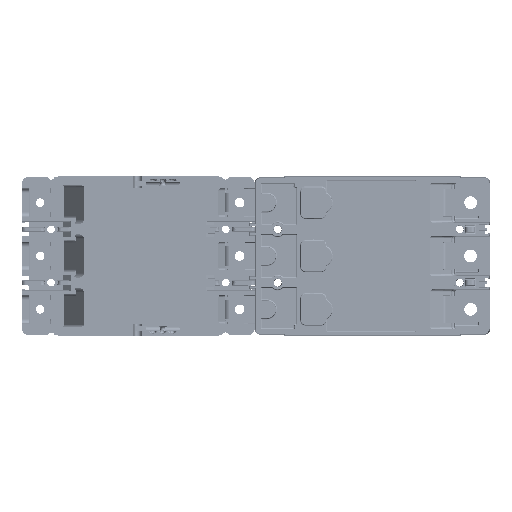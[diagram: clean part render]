
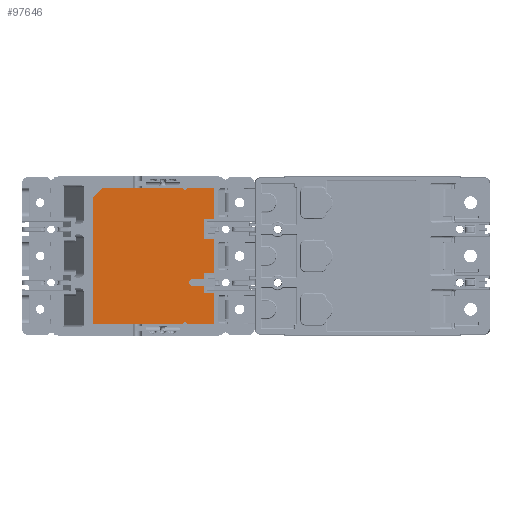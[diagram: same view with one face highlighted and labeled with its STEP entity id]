
A CAD part, front view. The second image highlights one B-rep face of the part: STEP entity #97646.
In plain terms, the highlighted planar face has unit normal (0, -1, 0) as drawn and (0, 1, 0) by its records, which use the part's own axes.
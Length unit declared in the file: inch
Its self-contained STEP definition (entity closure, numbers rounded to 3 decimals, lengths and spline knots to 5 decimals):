
#97238=CARTESIAN_POINT('',(0.8125,0.031,-1.758));
#97239=DIRECTION('',(0.,-1.,0.));
#97240=DIRECTION('',(1.,0.,0.));
#97241=AXIS2_PLACEMENT_3D('',#97238,#97239,#97240);
#97243=DIRECTION('',(-1.,0.,0.));
#97244=VECTOR('',#97243,0.687);
#97245=CARTESIAN_POINT('',(1.5545,0.031,-1.758));
#97246=LINE('',#97245,#97244);
#97247=DIRECTION('',(0.,0.,-1.));
#97248=VECTOR('',#97247,0.812);
#97249=CARTESIAN_POINT('',(1.5545,0.031,-0.946));
#97250=LINE('',#97249,#97248);
#97251=DIRECTION('',(-1.,0.,0.));
#97252=VECTOR('',#97251,0.25);
#97253=CARTESIAN_POINT('',(1.5545,0.031,-0.946));
#97254=LINE('',#97253,#97252);
#97255=DIRECTION('',(0.,0.,-1.));
#97256=VECTOR('',#97255,0.516);
#97257=CARTESIAN_POINT('',(1.3045,0.031,-0.43));
#97258=LINE('',#97257,#97256);
#97259=DIRECTION('',(-1.,0.,0.));
#97260=VECTOR('',#97259,0.25);
#97261=CARTESIAN_POINT('',(1.5545,0.031,-0.43));
#97262=LINE('',#97261,#97260);
#97263=DIRECTION('',(0.,0.,-1.));
#97264=VECTOR('',#97263,0.859);
#97265=CARTESIAN_POINT('',(1.5545,0.031,0.429));
#97266=LINE('',#97265,#97264);
#97267=DIRECTION('',(-1.,0.,0.));
#97268=VECTOR('',#97267,0.25);
#97269=CARTESIAN_POINT('',(1.5545,0.031,0.429));
#97270=LINE('',#97269,#97268);
#97271=DIRECTION('',(0.,0.,-1.));
#97272=VECTOR('',#97271,0.168);
#97273=CARTESIAN_POINT('',(1.3045,0.031,0.597));
#97274=LINE('',#97273,#97272);
#97275=DIRECTION('',(1.,0.,0.));
#97276=VECTOR('',#97275,0.3);
#97277=CARTESIAN_POINT('',(1.0045,0.031,0.597));
#97278=LINE('',#97277,#97276);
#97279=CARTESIAN_POINT('',(1.0045,0.031,0.687));
#97280=DIRECTION('',(0.,-1.,0.));
#97281=DIRECTION('',(0.,0.,1.));
#97282=AXIS2_PLACEMENT_3D('',#97279,#97280,#97281);
#97284=DIRECTION('',(-1.,0.,0.));
#97285=VECTOR('',#97284,0.3);
#97286=CARTESIAN_POINT('',(1.3045,0.031,0.777));
#97287=LINE('',#97286,#97285);
#97288=DIRECTION('',(0.,0.,-1.));
#97289=VECTOR('',#97288,0.168);
#97290=CARTESIAN_POINT('',(1.3045,0.031,0.945));
#97291=LINE('',#97290,#97289);
#97292=DIRECTION('',(-1.,0.,0.));
#97293=VECTOR('',#97292,0.25);
#97294=CARTESIAN_POINT('',(1.5545,0.031,0.945));
#97295=LINE('',#97294,#97293);
#97296=DIRECTION('',(0.,0.,-1.));
#97297=VECTOR('',#97296,0.813);
#97298=CARTESIAN_POINT('',(1.5545,0.031,1.758));
#97299=LINE('',#97298,#97297);
#97300=DIRECTION('',(1.,0.,0.));
#97301=VECTOR('',#97300,0.687);
#97302=CARTESIAN_POINT('',(0.8675,0.031,1.758));
#97303=LINE('',#97302,#97301);
#97304=CARTESIAN_POINT('',(0.8125,0.031,1.758));
#97305=DIRECTION('',(0.,-1.,0.));
#97306=DIRECTION('',(-1.,0.,0.));
#97307=AXIS2_PLACEMENT_3D('',#97304,#97305,#97306);
#97309=DIRECTION('',(1.,0.,0.));
#97310=VECTOR('',#97309,2.312);
#97311=CARTESIAN_POINT('',(-1.5545,0.031,1.758));
#97312=LINE('',#97311,#97310);
#97313=DIRECTION('',(0.,0.,1.));
#97314=VECTOR('',#97313,3.266);
#97315=CARTESIAN_POINT('',(-1.5545,0.031,-1.508));
#97316=LINE('',#97315,#97314);
#97317=DIRECTION('',(-1.,0.,0.));
#97318=VECTOR('',#97317,2.062);
#97319=CARTESIAN_POINT('',(0.7575,0.031,-1.758));
#97320=LINE('',#97319,#97318);
#97401=DIRECTION('',(0.707,0.,-0.707));
#97402=VECTOR('',#97401,0.35355);
#97403=CARTESIAN_POINT('',(-1.5545,0.031,-1.508));
#97404=LINE('',#97403,#97402);
#97418=CARTESIAN_POINT('',(-1.5545,0.031,1.758));
#97420=VERTEX_POINT('',#97418);
#97422=CARTESIAN_POINT('',(1.5545,0.031,1.758));
#97424=VERTEX_POINT('',#97422);
#97426=CARTESIAN_POINT('',(1.5545,0.031,-1.758));
#97428=VERTEX_POINT('',#97426);
#97437=CARTESIAN_POINT('',(1.5545,0.031,0.945));
#97438=CARTESIAN_POINT('',(1.3045,0.031,0.945));
#97439=VERTEX_POINT('',#97437);
#97440=VERTEX_POINT('',#97438);
#97441=CARTESIAN_POINT('',(1.5545,0.031,0.429));
#97442=CARTESIAN_POINT('',(1.3045,0.031,0.429));
#97443=VERTEX_POINT('',#97441);
#97444=VERTEX_POINT('',#97442);
#97453=CARTESIAN_POINT('',(1.5545,0.031,-0.43));
#97454=CARTESIAN_POINT('',(1.3045,0.031,-0.43));
#97455=VERTEX_POINT('',#97453);
#97456=VERTEX_POINT('',#97454);
#97457=CARTESIAN_POINT('',(1.3045,0.031,-0.946));
#97458=VERTEX_POINT('',#97457);
#97459=CARTESIAN_POINT('',(1.5545,0.031,-0.946));
#97460=VERTEX_POINT('',#97459);
#97469=CARTESIAN_POINT('',(1.3045,0.031,0.777));
#97470=CARTESIAN_POINT('',(1.0045,0.031,0.777));
#97471=VERTEX_POINT('',#97469);
#97472=VERTEX_POINT('',#97470);
#97473=CARTESIAN_POINT('',(1.0045,0.031,0.597));
#97474=VERTEX_POINT('',#97473);
#97475=CARTESIAN_POINT('',(1.3045,0.031,0.597));
#97476=VERTEX_POINT('',#97475);
#97481=CARTESIAN_POINT('',(0.8675,0.031,-1.758));
#97482=CARTESIAN_POINT('',(0.7575,0.031,-1.758));
#97483=VERTEX_POINT('',#97481);
#97484=VERTEX_POINT('',#97482);
#97489=CARTESIAN_POINT('',(0.7575,0.031,1.758));
#97490=CARTESIAN_POINT('',(0.8675,0.031,1.758));
#97491=VERTEX_POINT('',#97489);
#97492=VERTEX_POINT('',#97490);
#97493=CARTESIAN_POINT('',(-1.5545,0.031,-1.508));
#97494=CARTESIAN_POINT('',(-1.3045,0.031,-1.758));
#97495=VERTEX_POINT('',#97493);
#97496=VERTEX_POINT('',#97494);
#97600=CARTESIAN_POINT('',(0.,0.031,0.));
#97601=DIRECTION('',(0.,1.,0.));
#97602=DIRECTION('',(1.,0.,0.));
#97603=AXIS2_PLACEMENT_3D('',#97600,#97601,#97602);
#97604=PLANE('',#97603);
#97605=ORIENTED_EDGE('',*,*,#97594,.F.);
#97606=ORIENTED_EDGE('',*,*,#97563,.F.);
#97608=ORIENTED_EDGE('',*,*,#97607,.F.);
#97610=ORIENTED_EDGE('',*,*,#97609,.T.);
#97612=ORIENTED_EDGE('',*,*,#97611,.F.);
#97614=ORIENTED_EDGE('',*,*,#97613,.F.);
#97616=ORIENTED_EDGE('',*,*,#97615,.F.);
#97618=ORIENTED_EDGE('',*,*,#97617,.T.);
#97620=ORIENTED_EDGE('',*,*,#97619,.F.);
#97622=ORIENTED_EDGE('',*,*,#97621,.F.);
#97624=ORIENTED_EDGE('',*,*,#97623,.F.);
#97626=ORIENTED_EDGE('',*,*,#97625,.F.);
#97628=ORIENTED_EDGE('',*,*,#97627,.F.);
#97630=ORIENTED_EDGE('',*,*,#97629,.F.);
#97632=ORIENTED_EDGE('',*,*,#97631,.F.);
#97634=ORIENTED_EDGE('',*,*,#97633,.F.);
#97636=ORIENTED_EDGE('',*,*,#97635,.F.);
#97638=ORIENTED_EDGE('',*,*,#97637,.F.);
#97640=ORIENTED_EDGE('',*,*,#97639,.F.);
#97642=ORIENTED_EDGE('',*,*,#97641,.T.);
#97643=ORIENTED_EDGE('',*,*,#97582,.F.);
#97644=EDGE_LOOP('',(#97605,#97606,#97608,#97610,#97612,#97614,#97616,#97618,
#97620,#97622,#97624,#97626,#97628,#97630,#97632,#97634,#97636,#97638,#97640,
#97642,#97643));
#97645=FACE_OUTER_BOUND('',#97644,.F.);
#97646=ADVANCED_FACE('',(#97645),#97604,.T.);
#97242=CIRCLE('',#97241,0.055);
#97283=CIRCLE('',#97282,0.09);
#97308=CIRCLE('',#97307,0.055);
#97563=EDGE_CURVE('',#97428,#97483,#97246,.T.);
#97582=EDGE_CURVE('',#97484,#97496,#97320,.T.);
#97594=EDGE_CURVE('',#97483,#97484,#97242,.T.);
#97607=EDGE_CURVE('',#97460,#97428,#97250,.T.);
#97609=EDGE_CURVE('',#97460,#97458,#97254,.T.);
#97611=EDGE_CURVE('',#97456,#97458,#97258,.T.);
#97613=EDGE_CURVE('',#97455,#97456,#97262,.T.);
#97615=EDGE_CURVE('',#97443,#97455,#97266,.T.);
#97617=EDGE_CURVE('',#97443,#97444,#97270,.T.);
#97619=EDGE_CURVE('',#97476,#97444,#97274,.T.);
#97621=EDGE_CURVE('',#97474,#97476,#97278,.T.);
#97623=EDGE_CURVE('',#97472,#97474,#97283,.T.);
#97625=EDGE_CURVE('',#97471,#97472,#97287,.T.);
#97627=EDGE_CURVE('',#97440,#97471,#97291,.T.);
#97629=EDGE_CURVE('',#97439,#97440,#97295,.T.);
#97631=EDGE_CURVE('',#97424,#97439,#97299,.T.);
#97633=EDGE_CURVE('',#97492,#97424,#97303,.T.);
#97635=EDGE_CURVE('',#97491,#97492,#97308,.T.);
#97637=EDGE_CURVE('',#97420,#97491,#97312,.T.);
#97639=EDGE_CURVE('',#97495,#97420,#97316,.T.);
#97641=EDGE_CURVE('',#97495,#97496,#97404,.T.);
